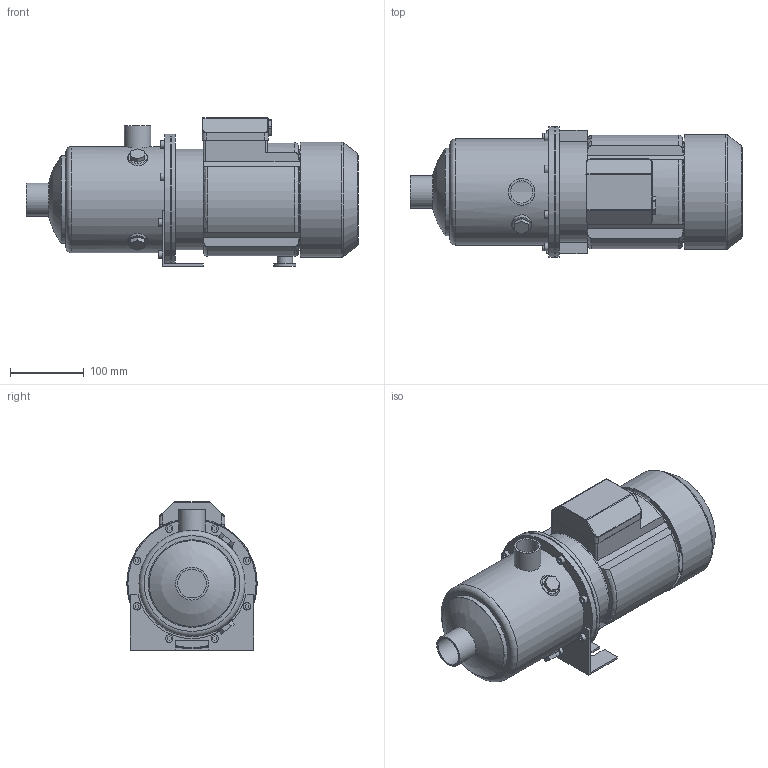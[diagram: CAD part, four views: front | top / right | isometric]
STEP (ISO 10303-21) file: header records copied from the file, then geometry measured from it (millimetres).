
FILE_DESCRIPTION(/* description */ ('Unknown'),/* implementation_level */ '2;1');
FILE_NAME(/* name */ 'MH 5 [5] T',/* time_stamp */ '2026-07-10T14:58:29+02:00',/* author */ ('Unknown'),/* organization */ ('Unknown'),/* preprocessor_version */ 'ST-DEVELOPER v20',/* originating_system */ 'Solid Edge',/* authorisation */ 'Unknown');
FILE_SCHEMA (('AUTOMOTIVE_DESIGN {1 0 10303 214 3 1 1}'));
Length unit declared in the file: millimetre
Products named in the file (10): MH 5 [5] T; Flangia motore Tonda M80; Corpo MH 3-5 [5]; Mot_Wendy_MEC80_11-15_T; carcassa MEC 80-Wendy; Copriventola MEC 80-Wendy; Basetta MEC 80 T-Wendy_new; Piedino MEC 80 int.90; Staffa 3-5-9 int.90
Assembly tree (8 placements, depth 3):
  MH 5 [5] T
    Flangia motore Tonda M80
    Corpo MH 3-5 [5]
    Mot_Wendy_MEC80_11-15_T
      carcassa MEC 80-Wendy
      Copriventola MEC 80-Wendy
      Basetta MEC 80 T-Wendy_new
    Piedino MEC 80 int.90
    Staffa 3-5-9 int.90
  (unnamed)
Bounding box: 449.1 x 176.5 x 200.5 mm (x, y, z)
Volume: 2055826.2 mm3; surface area: 566674.3 mm2
Topology: 8 solids, 8 shells, 276 faces, 647 edges, 429 vertices
Faces by surface type: plane 163, cylinder 74, torus 19, cone 14, bspline 4, sphere 2
Full cylindrical faces by diameter (mm): 7 x4, 10 x9, 13.5 x1, 17.5 x1, 21 x1, 30 x1, 30.291 x1, 36 x1, 38.952 x1, 44.5 x1, 116.1 x1, 118.5 x1, 125 x1, 130 x3, 134 x1, 136 x1, 141.1 x1, 143.5 x1, 153.5 x1, 155.5 x1, 173.5 x1, 174.1 x1, 176.5 x2
Entity records: 8860 total; most frequent: CARTESIAN_POINT 1595, DIRECTION 1262, ORIENTED_EDGE 1118, EDGE_CURVE 559, AXIS2_PLACEMENT_3D 461, VERTEX_POINT 398, EDGE_LOOP 385, FACE_BOUND 385
